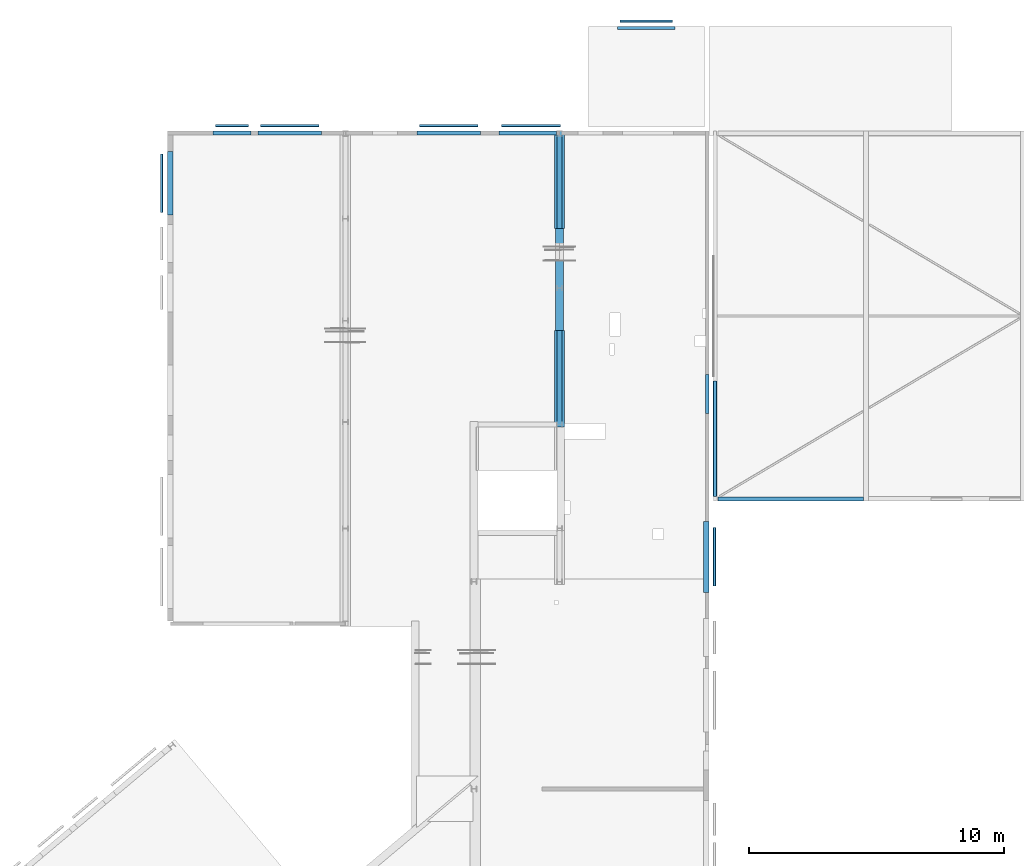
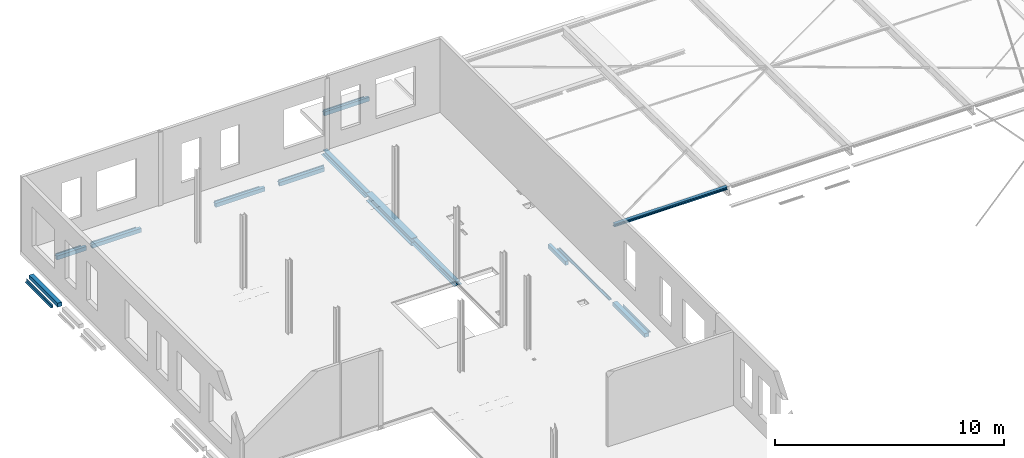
# One storey, part 8 of 16: 20 beams.
"""IFC2X3 building model written with IfcOpenShell, lengths in millimetres."""

from ifc_helpers import new_model, entity, si_unit, converted_unit, derived_unit, direction, frame, frame_2d, origin, origin_2d_with_axis, place, context, subcontext, project, spatial, polyline, circle_curve, parameter, trimmed, segment, composite_curve, rectangle, i_section, outline, extrude, source, transform, mapped, material, material_list, type_object, type_shapes, element, save


model = new_model("IFC2X3")

# Units and contexts
model_context = context("Model", 3, precision=0.01, world=origin(), true_north=direction((6.12303176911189e-17, 1.0)))
body_context = subcontext(model_context, "Body", "Model", "MODEL_VIEW")
ifc_project = project(units=[si_unit("LENGTHUNIT", "METRE", prefix="MILLI"), si_unit("AREAUNIT", "SQUARE_METRE"), si_unit("VOLUMEUNIT", "CUBIC_METRE"), converted_unit("PLANEANGLEUNIT", "DEGREE", entity("IfcRatioMeasure", 0.0174532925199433), si_unit("PLANEANGLEUNIT", "RADIAN"), dimensions=[0, 0, 0, 0, 0, 0, 0]), si_unit("MASSUNIT", "GRAM", prefix="KILO"), derived_unit("MASSDENSITYUNIT", [(si_unit("MASSUNIT", "GRAM", prefix="KILO"), 1), (si_unit("LENGTHUNIT", "METRE"), -3)]), derived_unit("MOMENTOFINERTIAUNIT", [(si_unit("LENGTHUNIT", "METRE"), 4)]), si_unit("TIMEUNIT", "SECOND"), si_unit("FREQUENCYUNIT", "HERTZ"), si_unit("THERMODYNAMICTEMPERATUREUNIT", "DEGREE_CELSIUS"), derived_unit("THERMALTRANSMITTANCEUNIT", [(si_unit("MASSUNIT", "GRAM", prefix="KILO"), 1), (si_unit("THERMODYNAMICTEMPERATUREUNIT", "KELVIN"), -1), (si_unit("TIMEUNIT", "SECOND"), -3)]), derived_unit("VOLUMETRICFLOWRATEUNIT", [(si_unit("LENGTHUNIT", "METRE"), 3), (si_unit("TIMEUNIT", "SECOND"), -1)]), si_unit("ELECTRICCURRENTUNIT", "AMPERE"), si_unit("ELECTRICVOLTAGEUNIT", "VOLT"), si_unit("POWERUNIT", "WATT"), si_unit("FORCEUNIT", "NEWTON", prefix="KILO"), si_unit("ILLUMINANCEUNIT", "LUX"), si_unit("LUMINOUSFLUXUNIT", "LUMEN"), si_unit("LUMINOUSINTENSITYUNIT", "CANDELA"), derived_unit("USERDEFINED", [(si_unit("MASSUNIT", "GRAM", prefix="KILO"), -1), (si_unit("LENGTHUNIT", "METRE"), -2), (si_unit("TIMEUNIT", "SECOND"), 3), (si_unit("LUMINOUSFLUXUNIT", "LUMEN"), 1)]), derived_unit("LINEARVELOCITYUNIT", [(si_unit("LENGTHUNIT", "METRE"), 1), (si_unit("TIMEUNIT", "SECOND"), -1)]), si_unit("PRESSUREUNIT", "PASCAL"), derived_unit("USERDEFINED", [(si_unit("LENGTHUNIT", "METRE"), -2), (si_unit("MASSUNIT", "GRAM", prefix="KILO"), 1), (si_unit("TIMEUNIT", "SECOND"), -2)]), derived_unit("LINEARFORCEUNIT", [(si_unit("MASSUNIT", "GRAM", prefix="KILO"), 1), (si_unit("LENGTHUNIT", "METRE"), 1), (si_unit("TIMEUNIT", "SECOND"), -2), (si_unit("LENGTHUNIT", "METRE"), -1)]), derived_unit("PLANARFORCEUNIT", [(si_unit("MASSUNIT", "GRAM", prefix="KILO"), 1), (si_unit("LENGTHUNIT", "METRE"), 1), (si_unit("TIMEUNIT", "SECOND"), -2), (si_unit("LENGTHUNIT", "METRE"), -2)])], contexts=[model_context])

# Site, building, storey
site_placement = place(None, origin())
site = spatial("IfcSite", under=ifc_project, at=site_placement, Name="Default", CompositionType="ELEMENT")
building_placement = place(site_placement, origin())
building = spatial("IfcBuilding", under=site, at=building_placement, CompositionType="ELEMENT")
storey_placement = place(building_placement, frame((0.0, 0.0, 3500.0)))
storey = spatial("IfcBuildingStorey", under=building, at=storey_placement, Name="01 eerste verdieping", CompositionType="ELEMENT", Elevation=3500.00000000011)

# Beams
ifc_material_1 = material(Name="00_Staal_generiek")
beam_type_1 = type_object("IfcBeamType", Name="BERSnl_28_SF_LIB_balk hoeklijn ongelijk_gen_ISR:balk gen l150x100x10", PredefinedType="BEAM")
beam_1_placement = place(storey_placement, frame((14954.4349765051, 35679.3488747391, -567.0)))
element("IfcBeam", 1, at=beam_1_placement, inside=storey, type_object=beam_type_1, material=ifc_material_1, Name="BERSnl_28_SF_LIB_balk hoeklijn ongelijk_gen_ISR:balk gen l150x100x10", ObjectType="BERSnl_28_SF_LIB_balk hoeklijn ongelijk_gen_ISR:balk gen l150x100x10", context=body_context, shape_type="SweptSolid", body=[
    extrude(outline(composite_curve([segment(polyline([(-95.5555555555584, -37.7777777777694), (54.4444444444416, -37.7777777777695)]), True, "CONTINUOUS"), segment(polyline([(54.4444444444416, -37.7777777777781), (54.4444444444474, 62.2222222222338)]), True, "CONTINUOUS"), segment(polyline([(54.4444444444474, 62.2222222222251), (50.4444444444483, 62.222222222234)]), True, "CONTINUOUS"), segment(trimmed(circle_curve(frame_2d((50.4444444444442, 56.2222222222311), x_axis=(0.0, 1.0)), 5.99999999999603), [parameter(0.0)], [parameter(90.0000000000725)], True, "PARAMETER"), True, "CONTINUOUS"), segment(polyline([(44.4444444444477, 56.2222222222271), (44.4444444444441, -15.7777777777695)]), True, "CONTINUOUS"), segment(trimmed(circle_curve(frame_2d((32.4444444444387, -15.7777777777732), x_axis=(1.0, 0.0)), 12.000000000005), [parameter(270.000000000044)], [parameter(0.0)], True, "PARAMETER"), False, "CONTINUOUS"), segment(polyline([(32.4444444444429, -27.7777777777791), (-89.5555555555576, -27.7777777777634)]), True, "CONTINUOUS"), segment(trimmed(circle_curve(frame_2d((-89.5555555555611, -33.7777777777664), x_axis=(0.0, 1.0)), 5.99999999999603), [parameter(0.0)], [parameter(90.0000000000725)], True, "PARAMETER"), True, "CONTINUOUS"), segment(polyline([(-95.5555555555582, -33.7777777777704), (-95.5555555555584, -37.7777777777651)]), True, "CONTINUOUS")], self_intersect=False)), frame((523.0, 14.3777777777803, -95.5555555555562), z_axis=(1.0, 0.0, 0.0), x_axis=(0.0, 0.0, -1.0)), (0.0, 0.0, 1.0), 1286.0),
])
beam_2_placement = place(storey_placement, frame((13402.0349765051, 32570.1243721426, -560.0), z_axis=(0.0, 0.0, 1.0), x_axis=(0.0, 1.0, 0.0)))
element("IfcBeam", 2, at=beam_2_placement, inside=storey, type_object=beam_type_1, material=ifc_material_1, Name="BERSnl_28_SF_LIB_balk hoeklijn ongelijk_gen_ISR:balk gen l150x100x10", ObjectType="BERSnl_28_SF_LIB_balk hoeklijn ongelijk_gen_ISR:balk gen l150x100x10", context=body_context, shape_type="SweptSolid", body=[
    extrude(outline(composite_curve([segment(polyline([(-95.5555555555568, -37.7777777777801), (54.4444444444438, -37.7777777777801)]), True, "CONTINUOUS"), segment(polyline([(54.4444444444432, -37.7777777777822), (54.4444444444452, 62.2222222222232)]), True, "CONTINUOUS"), segment(polyline([(54.4444444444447, 62.222222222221), (50.4444444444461, 62.2222222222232)]), True, "CONTINUOUS"), segment(trimmed(circle_curve(frame_2d((50.4444444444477, 56.2222222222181), x_axis=(0.0, 1.0)), 6.00000000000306), [parameter(0.0)], [parameter(89.9999999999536)], True, "PARAMETER"), True, "CONTINUOUS"), segment(polyline([(44.4444444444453, 56.2222222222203), (44.4444444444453, -15.7777777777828)]), True, "CONTINUOUS"), segment(trimmed(circle_curve(frame_2d((32.4444444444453, -15.7777777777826), x_axis=(1.0, 0.0)), 11.9999999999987), [parameter(269.999999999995)], [parameter(0.0)], True, "PARAMETER"), False, "CONTINUOUS"), segment(polyline([(32.4444444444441, -27.777777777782), (-89.5555555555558, -27.7777777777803)]), True, "CONTINUOUS"), segment(trimmed(circle_curve(frame_2d((-89.5555555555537, -33.7777777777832), x_axis=(0.0, 1.0)), 6.00000000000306), [parameter(0.0)], [parameter(89.9999999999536)], True, "PARAMETER"), True, "CONTINUOUS"), segment(polyline([(-95.5555555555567, -33.777777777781), (-95.5555555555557, -37.7777777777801)]), True, "CONTINUOUS")], self_intersect=False)), frame((-251.827743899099, 14.3777777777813, -95.5555555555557), z_axis=(1.0, 0.0, 0.0), x_axis=(0.0, 0.0, -1.0)), (0.0, 0.0, 1.0), 2286.0),
])
beam_3_placement = place(storey_placement, frame((23974.4349765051, 35679.3488747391, -567.0)))
element("IfcBeam", 3, at=beam_3_placement, inside=storey, type_object=beam_type_1, material=ifc_material_1, Name="BERSnl_28_SF_LIB_balk hoeklijn ongelijk_gen_ISR:balk gen l150x100x10", ObjectType="BERSnl_28_SF_LIB_balk hoeklijn ongelijk_gen_ISR:balk gen l150x100x10", context=body_context, shape_type="SweptSolid", body=[
    extrude(outline(composite_curve([segment(polyline([(-95.5555555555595, -37.7777777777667), (54.44444444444, -37.7777777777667)]), True, "CONTINUOUS"), segment(polyline([(54.4444444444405, -37.7777777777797), (54.4444444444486, 62.2222222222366)]), True, "CONTINUOUS"), segment(polyline([(54.4444444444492, 62.2222222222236), (50.4444444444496, 62.2222222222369)]), True, "CONTINUOUS"), segment(trimmed(circle_curve(frame_2d((50.4444444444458, 56.2222222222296), x_axis=(0.0, 1.0)), 5.99999999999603), [parameter(0.0)], [parameter(90.0000000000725)], True, "PARAMETER"), True, "CONTINUOUS"), segment(polyline([(44.4444444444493, 56.2222222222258), (44.4444444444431, -15.7777777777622)]), True, "CONTINUOUS"), segment(trimmed(circle_curve(frame_2d((32.4444444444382, -15.7777777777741), x_axis=(1.0, 0.0)), 12.000000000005), [parameter(270.000000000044)], [parameter(0.0)], True, "PARAMETER"), False, "CONTINUOUS"), segment(polyline([(32.4444444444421, -27.77777777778), (-89.5555555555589, -27.7777777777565)]), True, "CONTINUOUS"), segment(trimmed(circle_curve(frame_2d((-89.5555555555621, -33.7777777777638), x_axis=(0.0, 1.0)), 5.99999999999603), [parameter(0.0)], [parameter(90.0000000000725)], True, "PARAMETER"), True, "CONTINUOUS"), segment(polyline([(-95.5555555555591, -33.7777777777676), (-95.55555555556, -37.7777777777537)]), True, "CONTINUOUS")], self_intersect=False)), frame((-497.0, 14.3777777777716, -95.5555555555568), z_axis=(1.0, 0.0, 0.0), x_axis=(0.0, 0.0, -1.0)), (0.0, 0.0, 1.0), 2288.0),
])
beam_4_placement = place(storey_placement, frame((26919.4349765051, 35679.3488747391, -567.0)))
element("IfcBeam", 4, at=beam_4_placement, inside=storey, type_object=beam_type_1, material=ifc_material_1, Name="BERSnl_28_SF_LIB_balk hoeklijn ongelijk_gen_ISR:balk gen l150x100x10", ObjectType="BERSnl_28_SF_LIB_balk hoeklijn ongelijk_gen_ISR:balk gen l150x100x10", context=body_context, shape_type="SweptSolid", body=[
    extrude(outline(composite_curve([segment(polyline([(-95.5555555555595, -37.7777777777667), (54.44444444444, -37.7777777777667)]), True, "CONTINUOUS"), segment(polyline([(54.4444444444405, -37.7777777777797), (54.4444444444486, 62.2222222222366)]), True, "CONTINUOUS"), segment(polyline([(54.4444444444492, 62.2222222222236), (50.4444444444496, 62.2222222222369)]), True, "CONTINUOUS"), segment(trimmed(circle_curve(frame_2d((50.4444444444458, 56.2222222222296), x_axis=(0.0, 1.0)), 5.99999999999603), [parameter(0.0)], [parameter(90.0000000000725)], True, "PARAMETER"), True, "CONTINUOUS"), segment(polyline([(44.4444444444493, 56.2222222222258), (44.4444444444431, -15.7777777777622)]), True, "CONTINUOUS"), segment(trimmed(circle_curve(frame_2d((32.4444444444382, -15.7777777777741), x_axis=(1.0, 0.0)), 12.000000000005), [parameter(270.000000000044)], [parameter(0.0)], True, "PARAMETER"), False, "CONTINUOUS"), segment(polyline([(32.4444444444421, -27.77777777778), (-89.5555555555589, -27.7777777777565)]), True, "CONTINUOUS"), segment(trimmed(circle_curve(frame_2d((-89.5555555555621, -33.7777777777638), x_axis=(0.0, 1.0)), 5.99999999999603), [parameter(0.0)], [parameter(90.0000000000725)], True, "PARAMETER"), True, "CONTINUOUS"), segment(polyline([(-95.5555555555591, -33.7777777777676), (-95.55555555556, -37.7777777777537)]), True, "CONTINUOUS")], self_intersect=False)), frame((-232.0, 14.377777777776, -95.5555555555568), z_axis=(1.0, 0.0, 0.0), x_axis=(0.0, 0.0, -1.0)), (0.0, 0.0, 1.0), 2322.0),
])
beam_5_placement = place(storey_placement, frame((31643.979888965, 39779.6966282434, -945.0)))
element("IfcBeam", 5, at=beam_5_placement, inside=storey, type_object=beam_type_1, material=ifc_material_1, Name="BERSnl_28_SF_LIB_balk hoeklijn ongelijk_gen_ISR:balk gen l150x100x10", ObjectType="BERSnl_28_SF_LIB_balk hoeklijn ongelijk_gen_ISR:balk gen l150x100x10", context=body_context, shape_type="SweptSolid", body=[
    extrude(outline(composite_curve([segment(polyline([(-95.5555555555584, -37.7777777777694), (54.4444444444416, -37.7777777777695)]), True, "CONTINUOUS"), segment(polyline([(54.4444444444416, -37.7777777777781), (54.4444444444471, 62.2222222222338)]), True, "CONTINUOUS"), segment(polyline([(54.4444444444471, 62.2222222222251), (50.4444444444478, 62.222222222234)]), True, "CONTINUOUS"), segment(trimmed(circle_curve(frame_2d((50.4444444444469, 56.2222222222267), x_axis=(0.0, 1.0)), 5.99999999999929), [parameter(0.0)], [parameter(90.0000000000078)], True, "PARAMETER"), True, "CONTINUOUS"), segment(polyline([(44.4444444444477, 56.2222222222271), (44.4444444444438, -15.7777777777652)]), True, "CONTINUOUS"), segment(trimmed(circle_curve(frame_2d((32.4444444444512, -15.7777777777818), x_axis=(1.0, 0.0)), 11.999999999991), [parameter(269.999999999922)], [parameter(0.0)], True, "PARAMETER"), False, "CONTINUOUS"), segment(polyline([(32.4444444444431, -27.7777777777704), (-89.5555555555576, -27.7777777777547)]), True, "CONTINUOUS"), segment(trimmed(circle_curve(frame_2d((-89.5555555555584, -33.7777777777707), x_axis=(0.0, 1.0)), 5.99999999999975), [parameter(0.0)], [parameter(90.0000000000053)], True, "PARAMETER"), True, "CONTINUOUS"), segment(polyline([(-95.5555555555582, -33.7777777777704), (-95.5555555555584, -37.7777777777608)]), True, "CONTINUOUS")], self_intersect=False)), frame((-308.544912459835, 14.377777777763, -95.5555555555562), z_axis=(1.0, 0.0, 0.0), x_axis=(0.0, 0.0, -1.0)), (0.0, 0.0, 1.0), 2064.88887394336),
])
beam_6_placement = place(storey_placement, frame((35016.8270571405, 18106.9986417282, -560.0), z_axis=(0.0, 0.0, 1.0), x_axis=(0.0, 1.0, 0.0)))
element("IfcBeam", 6, at=beam_6_placement, inside=storey, type_object=beam_type_1, material=ifc_material_1, Name="BERSnl_28_SF_LIB_balk hoeklijn ongelijk_gen_ISR:balk gen l150x100x10", ObjectType="BERSnl_28_SF_LIB_balk hoeklijn ongelijk_gen_ISR:balk gen l150x100x10", context=body_context, shape_type="SweptSolid", body=[
    extrude(outline(composite_curve([segment(polyline([(50.4444444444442, -62.2222222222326), (54.4444444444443, -62.2222222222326)]), True, "CONTINUOUS"), segment(polyline([(54.4444444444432, -62.2222222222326), (54.4444444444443, 37.7777777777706)]), True, "CONTINUOUS"), segment(polyline([(54.4444444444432, 37.7777777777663), (-95.5555555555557, 37.7777777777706)]), True, "CONTINUOUS"), segment(polyline([(-95.5555555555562, 37.7777777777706), (-95.5555555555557, 33.7777777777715)]), True, "CONTINUOUS"), segment(trimmed(circle_curve(frame_2d((-89.5555555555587, 33.7777777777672), x_axis=(-1.0, 0.0)), 5.99999999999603), [parameter(0.0)], [parameter(90.0000000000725)], True, "PARAMETER"), True, "CONTINUOUS"), segment(polyline([(-89.5555555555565, 27.7777777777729), (32.444444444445, 27.7777777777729)]), True, "CONTINUOUS"), segment(trimmed(circle_curve(frame_2d((32.4444444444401, 15.777777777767), x_axis=(0.0, 1.0)), 12.000000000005), [parameter(270.000000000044)], [parameter(0.0)], True, "PARAMETER"), False, "CONTINUOUS"), segment(polyline([(44.4444444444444, 15.777777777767), (44.444444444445, -56.222222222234)]), True, "CONTINUOUS"), segment(trimmed(circle_curve(frame_2d((50.4444444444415, -56.2222222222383), x_axis=(-1.0, 0.0)), 5.99999999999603), [parameter(0.0)], [parameter(90.0000000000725)], True, "PARAMETER"), True, "CONTINUOUS")], self_intersect=False)), frame((-452.364971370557, -14.3777777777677, -95.5555555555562), z_axis=(1.0, 0.0, 0.0), x_axis=(0.0, 0.0, -1.0)), (0.0, 0.0, 1.0), 2295.00000000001),
])
beam_7_placement = place(storey_placement, frame((16724.4349765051, 35679.3488747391, -567.0)))
element("IfcBeam", 7, at=beam_7_placement, inside=storey, type_object=beam_type_1, material=ifc_material_1, Name="BERSnl_28_SF_LIB_balk hoeklijn ongelijk_gen_ISR:balk gen l150x100x10", ObjectType="BERSnl_28_SF_LIB_balk hoeklijn ongelijk_gen_ISR:balk gen l150x100x10", context=body_context, shape_type="SweptSolid", body=[
    extrude(outline(composite_curve([segment(polyline([(-95.5555555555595, -37.777777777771), (54.4444444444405, -37.777777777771)]), True, "CONTINUOUS"), segment(polyline([(54.4444444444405, -37.777777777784), (54.4444444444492, 62.2222222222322)]), True, "CONTINUOUS"), segment(polyline([(54.4444444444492, 62.2222222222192), (50.4444444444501, 62.2222222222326)]), True, "CONTINUOUS"), segment(trimmed(circle_curve(frame_2d((50.4444444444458, 56.2222222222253), x_axis=(0.0, 1.0)), 5.99999999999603), [parameter(0.0)], [parameter(90.0000000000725)], True, "PARAMETER"), True, "CONTINUOUS"), segment(polyline([(44.4444444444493, 56.2222222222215), (44.4444444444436, -15.7777777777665)]), True, "CONTINUOUS"), segment(trimmed(circle_curve(frame_2d((32.4444444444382, -15.7777777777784), x_axis=(1.0, 0.0)), 12.000000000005), [parameter(270.000000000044)], [parameter(0.0)], True, "PARAMETER"), False, "CONTINUOUS"), segment(polyline([(32.4444444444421, -27.7777777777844), (-89.5555555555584, -27.7777777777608)]), True, "CONTINUOUS"), segment(trimmed(circle_curve(frame_2d((-89.5555555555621, -33.7777777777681), x_axis=(0.0, 1.0)), 5.99999999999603), [parameter(0.0)], [parameter(90.0000000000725)], True, "PARAMETER"), True, "CONTINUOUS"), segment(polyline([(-95.5555555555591, -33.7777777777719), (-95.5555555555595, -37.777777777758)]), True, "CONTINUOUS")], self_intersect=False)), frame((523.0, 14.3777777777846, -95.5555555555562), z_axis=(1.0, 0.0, 0.0), x_axis=(0.0, 0.0, -1.0)), (0.0, 0.0, 1.0), 2286.0),
])
ifc_material_2 = material(Name="f2_beton prefab")
beam_type_2 = type_object("IfcBeamType", Name="BERSnl_28_SF_LIB_balk vierkant prefab_gen_ISR:balk vierkant gen 150x210", PredefinedType="JOIST")
beam_8_placement = place(storey_placement, frame((14969.4349765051, 35420.9488747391, -497.0)))
element("IfcBeam", 8, at=beam_8_placement, inside=storey, type_object=beam_type_2, material=ifc_material_2, Name="BERSnl_28_SF_LIB_balk vierkant prefab_gen_ISR:balk vierkant gen 150x210", ObjectType="BERSnl_28_SF_LIB_balk vierkant prefab_gen_ISR:balk vierkant gen 150x210", context=body_context, shape_type="SweptSolid", body=[
    extrude(rectangle(XDim=210.000000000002, YDim=149.999999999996, at=frame_2d((0.0, 2.16715534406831e-12), x_axis=(1.0, 0.0))), frame((408.0, 0.0, -105.0), z_axis=(1.0, 0.0, 0.0), x_axis=(0.0, 0.0, -1.0)), (0.0, 0.0, 1.0), 1486.0),
])
beam_9_placement = place(storey_placement, frame((23989.4349765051, 35420.9488747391, -497.0)))
element("IfcBeam", 9, at=beam_9_placement, inside=storey, type_object=beam_type_2, material=ifc_material_2, Name="BERSnl_28_SF_LIB_balk vierkant prefab_gen_ISR:balk vierkant gen 150x210", ObjectType="BERSnl_28_SF_LIB_balk vierkant prefab_gen_ISR:balk vierkant gen 150x210", context=body_context, shape_type="SweptSolid", body=[
    extrude(rectangle(XDim=210.000000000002, YDim=149.999999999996, at=frame_2d((5.40012479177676e-13, 6.49436060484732e-12), x_axis=(1.0, 0.0))), frame((-612.0, 0.0, -105.0), z_axis=(1.0, 0.0, 0.0), x_axis=(0.0, 0.0, -1.0)), (0.0, 0.0, 1.0), 2488.0),
])
beam_10_placement = place(storey_placement, frame((26934.4349765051, 35420.9488747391, -497.0)))
element("IfcBeam", 10, at=beam_10_placement, inside=storey, type_object=beam_type_2, material=ifc_material_2, Name="BERSnl_28_SF_LIB_balk vierkant prefab_gen_ISR:balk vierkant gen 150x210", ObjectType="BERSnl_28_SF_LIB_balk vierkant prefab_gen_ISR:balk vierkant gen 150x210", context=body_context, shape_type="SweptSolid", body=[
    extrude(rectangle(XDim=210.000000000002, YDim=149.999999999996, at=frame_2d((5.40012479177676e-13, 6.49436060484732e-12), x_axis=(1.0, 0.0))), frame((-347.0, 0.0, -105.0), z_axis=(1.0, 0.0, 0.0), x_axis=(0.0, 0.0, -1.0)), (0.0, 0.0, 1.0), 2270.20007680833),
])
beam_11_placement = place(storey_placement, frame((34758.4270571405, 24742.2339345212, -923.0), z_axis=(0.0, 0.0, 1.0), x_axis=(0.0, 1.0, 0.0)))
element("IfcBeam", 11, at=beam_11_placement, inside=storey, type_object=beam_type_2, material=ifc_material_2, Name="BERSnl_28_SF_LIB_balk vierkant prefab_gen_ISR:balk vierkant gen 150x210", ObjectType="BERSnl_28_SF_LIB_balk vierkant prefab_gen_ISR:balk vierkant gen 150x210", context=body_context, shape_type="SweptSolid", body=[
    extrude(rectangle(XDim=210.000000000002, YDim=149.999999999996, at=frame_2d((-1.62003743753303e-12, -2.1600499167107e-12), x_axis=(1.0, 0.0))), frame((-319.937306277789, 0.0, -105.0), z_axis=(1.0, 0.0, 0.0), x_axis=(0.0, 0.0, -1.0)), (0.0, 0.0, 1.0), 1534.29121661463),
])
beam_12_placement = place(storey_placement, frame((16739.4349765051, 35420.9488747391, -497.0)))
element("IfcBeam", 12, at=beam_12_placement, inside=storey, type_object=beam_type_2, material=ifc_material_2, Name="BERSnl_28_SF_LIB_balk vierkant prefab_gen_ISR:balk vierkant gen 150x210", ObjectType="BERSnl_28_SF_LIB_balk vierkant prefab_gen_ISR:balk vierkant gen 150x210", context=body_context, shape_type="SweptSolid", body=[
    extrude(rectangle(XDim=210.000000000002, YDim=149.999999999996, at=frame_2d((0.0, 6.49436060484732e-12), x_axis=(1.0, 0.0))), frame((408.0, 0.0, -105.0), z_axis=(1.0, 0.0, 0.0), x_axis=(0.0, 0.0, -1.0)), (0.0, 0.0, 1.0), 2486.0),
])
beam_type_3 = type_object("IfcBeamType", Name="BERSnl_28_SF_LIB_balk vierkant prefab_gen_ISR:balk vierkant gen 214x210", PredefinedType="JOIST")
beam_13_placement = place(storey_placement, frame((13702.4349765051, 31836.5425954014, -490.0), z_axis=(0.0, 0.0, 1.0), x_axis=(0.0, 1.0, 0.0)))
element("IfcBeam", 13, at=beam_13_placement, inside=storey, type_object=beam_type_3, material=ifc_material_2, Name="BERSnl_28_SF_LIB_balk vierkant prefab_gen_ISR:balk vierkant gen 214x210", ObjectType="BERSnl_28_SF_LIB_balk vierkant prefab_gen_ISR:balk vierkant gen 214x210", context=body_context, shape_type="SweptSolid", body=[
    extrude(rectangle(XDim=210.000000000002, YDim=213.999999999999, at=origin_2d_with_axis()), frame((381.754032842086, 0.0, -105.0), z_axis=(1.0, 0.0, 0.0), x_axis=(0.0, 0.0, -1.0)), (0.0, 0.0, 1.0), 2486.0),
])
beam_14_placement = place(storey_placement, frame((34726.4270571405, 18091.29829599, -490.0), z_axis=(0.0, 0.0, 1.0), x_axis=(0.0, 1.0, 0.0)))
element("IfcBeam", 14, at=beam_14_placement, inside=storey, type_object=beam_type_3, material=ifc_material_2, Name="BERSnl_28_SF_LIB_balk vierkant prefab_gen_ISR:balk vierkant gen 214x210", ObjectType="BERSnl_28_SF_LIB_balk vierkant prefab_gen_ISR:balk vierkant gen 214x210", context=body_context, shape_type="SweptSolid", body=[
    extrude(rectangle(XDim=210.000000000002, YDim=213.999999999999, at=frame_2d((0.0, 6.49436060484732e-12), x_axis=(1.0, 0.0))), frame((-686.664625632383, 0.0, -105.0), z_axis=(1.0, 0.0, 0.0), x_axis=(0.0, 0.0, -1.0)), (0.0, 0.0, 1.0), 2786.48145657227),
])
ifc_material_3 = material(Name="<Unnamed>")
ifc_material_list_1 = material_list([ifc_material_3, ifc_material_1])
beam_type_4 = type_object("IfcBeamType", Name="BERSnl_28_SF_LIB_balk sfb_gen_ISR:balk gen heb200 400x15", PredefinedType="T_BEAM", material=ifc_material_list_1)
shared_shape_1 = source(origin(), body_context, "Body", "SweptSolid", [
    extrude(rectangle(XDim=15.0, YDim=400.0, at=origin_2d_with_axis()), frame((-2154.64112989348, 0.0, -60.5000000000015), z_axis=(1.0, 0.0, 0.0), x_axis=(0.0, 0.0, -1.0)), (0.0, 0.0, 1.0), 3824.47514241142),
    extrude(outline(composite_curve([segment(polyline([(85.0, -100.0), (100.0, -100.0)]), True, "CONTINUOUS"), segment(polyline([(100.0, -100.0), (100.0, 100.0)]), True, "CONTINUOUS"), segment(polyline([(100.0, 100.0), (85.0, 100.0)]), True, "CONTINUOUS"), segment(polyline([(85.0, 100.0), (85.0, 22.4999999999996)]), True, "CONTINUOUS"), segment(trimmed(circle_curve(frame_2d((67.0, 22.4999999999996), x_axis=(1.0, 0.0)), 18.0), [parameter(270.0)], [parameter(0.0)], True, "PARAMETER"), False, "CONTINUOUS"), segment(polyline([(67.0, 4.49999999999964), (-67.0, 4.49999999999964)]), True, "CONTINUOUS"), segment(trimmed(circle_curve(frame_2d((-67.0, 22.4999999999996), x_axis=(0.0, -1.0)), 18.0), [parameter(270.0)], [parameter(0.0)], True, "PARAMETER"), False, "CONTINUOUS"), segment(polyline([(-85.0, 22.4999999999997), (-85.0, 100.0)]), True, "CONTINUOUS"), segment(polyline([(-85.0, 100.0), (-100.0, 100.0)]), True, "CONTINUOUS"), segment(polyline([(-100.0, 100.0), (-100.0, -100.0)]), True, "CONTINUOUS"), segment(polyline([(-100.0, -100.0), (-85.0, -100.0)]), True, "CONTINUOUS"), segment(polyline([(-85.0, -100.0), (-85.0, -22.5000000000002)]), True, "CONTINUOUS"), segment(trimmed(circle_curve(frame_2d((-67.0, -22.5000000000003), x_axis=(-1.0, 0.0)), 18.0), [parameter(270.0)], [parameter(0.0)], True, "PARAMETER"), False, "CONTINUOUS"), segment(polyline([(-67.0, -4.50000000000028), (67.0, -4.50000000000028)]), True, "CONTINUOUS"), segment(trimmed(circle_curve(frame_2d((67.0, -22.5000000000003), x_axis=(0.0, 1.0)), 18.0), [parameter(270.0)], [parameter(0.0)], True, "PARAMETER"), False, "CONTINUOUS"), segment(polyline([(85.0, -22.5000000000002), (85.0, -100.0)]), True, "CONTINUOUS")], self_intersect=False)), frame((-2154.85013300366, 0.0, 47.0), z_axis=(1.0, 0.0, 0.0), x_axis=(0.0, 0.0, -1.0)), (0.0, 0.0, 1.0), 3825.0),
])
type_shapes(beam_type_4, [shared_shape_1])
beam_15_placement = place(storey_placement, frame((28969.4349765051, 33837.1467612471, 203.0), z_axis=(0.0, 0.0, 1.0), x_axis=(0.0, 1.0, 0.0)))
element("IfcBeam", 15, at=beam_15_placement, inside=storey, type_object=beam_type_4, Name="BERSnl_28_SF_LIB_balk sfb_gen_ISR:balk gen heb200 400x15", ObjectType="BERSnl_28_SF_LIB_balk sfb_gen_ISR:balk gen heb200 400x15", context=body_context, shape_type="MappedRepresentation", body=[
    mapped(shared_shape_1, transform((0.0, 0.0, 0.0), scale=1.0)),
])
beam_type_5 = type_object("IfcBeamType", Name="BERSnl_28_SF_LIB_balk heb_gen_ISR:balk gen heb400", PredefinedType="BEAM")
beam_16_placement = place(storey_placement, frame((28969.4349765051, 29802.2966282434, 375.0), z_axis=(0.0, 0.0, 1.0), x_axis=(0.0, 1.0, 0.0)))
element("IfcBeam", 16, at=beam_16_placement, inside=storey, type_object=beam_type_5, material=ifc_material_1, Name="BERSnl_28_SF_LIB_balk heb_gen_ISR:balk gen heb400", ObjectType="BERSnl_28_SF_LIB_balk heb_gen_ISR:balk gen heb400", context=body_context, shape_type="SweptSolid", body=[
    extrude(i_section(OverallWidth=299.999999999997, OverallDepth=400.0, WebThickness=13.500000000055, FlangeThickness=24.000000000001, FilletRadius=26.9999999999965, at=frame_2d((1.08002495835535e-12, 4.33431068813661e-12), x_axis=(0.0, 1.0))), frame((-2120.0, 0.0, -200.0), z_axis=(1.0, 0.0, 0.0), x_axis=(0.0, 0.0, -1.0)), (0.0, 0.0, 1.0), 4000.0),
])
ifc_material_list_2 = material_list([ifc_material_3, ifc_material_1])
beam_type_6 = type_object("IfcBeamType", Name="BERSnl_28_SF_LIB_balk sfb_gen_ISR:balk gen heb200 400x15", PredefinedType="T_BEAM", material=ifc_material_list_2)
shared_shape_2 = source(origin(), body_context, "Body", "SweptSolid", [
    extrude(rectangle(XDim=15.0, YDim=400.0, at=origin_2d_with_axis()), frame((-2120.148022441, 0.0, -60.5000000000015), z_axis=(1.0, 0.0, 0.0), x_axis=(0.0, 0.0, -1.0)), (0.0, 0.0, 1.0), 3789.66618048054),
    extrude(outline(composite_curve([segment(polyline([(85.0, -100.0), (100.0, -100.0)]), True, "CONTINUOUS"), segment(polyline([(100.0, -100.0), (100.0, 100.0)]), True, "CONTINUOUS"), segment(polyline([(100.0, 100.0), (85.0, 100.0)]), True, "CONTINUOUS"), segment(polyline([(85.0, 100.0), (85.0, 22.4999999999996)]), True, "CONTINUOUS"), segment(trimmed(circle_curve(frame_2d((67.0, 22.4999999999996), x_axis=(1.0, 0.0)), 18.0), [parameter(270.0)], [parameter(0.0)], True, "PARAMETER"), False, "CONTINUOUS"), segment(polyline([(67.0, 4.49999999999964), (-67.0, 4.49999999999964)]), True, "CONTINUOUS"), segment(trimmed(circle_curve(frame_2d((-67.0, 22.4999999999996), x_axis=(0.0, -1.0)), 18.0), [parameter(270.0)], [parameter(0.0)], True, "PARAMETER"), False, "CONTINUOUS"), segment(polyline([(-85.0, 22.4999999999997), (-85.0, 100.0)]), True, "CONTINUOUS"), segment(polyline([(-85.0, 100.0), (-100.0, 100.0)]), True, "CONTINUOUS"), segment(polyline([(-100.0, 100.0), (-100.0, -100.0)]), True, "CONTINUOUS"), segment(polyline([(-100.0, -100.0), (-85.0, -100.0)]), True, "CONTINUOUS"), segment(polyline([(-85.0, -100.0), (-85.0, -22.5000000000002)]), True, "CONTINUOUS"), segment(trimmed(circle_curve(frame_2d((-67.0, -22.5000000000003), x_axis=(-1.0, 0.0)), 18.0), [parameter(270.0)], [parameter(0.0)], True, "PARAMETER"), False, "CONTINUOUS"), segment(polyline([(-67.0, -4.50000000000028), (67.0, -4.50000000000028)]), True, "CONTINUOUS"), segment(trimmed(circle_curve(frame_2d((67.0, -22.5000000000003), x_axis=(0.0, 1.0)), 18.0), [parameter(270.0)], [parameter(0.0)], True, "PARAMETER"), False, "CONTINUOUS"), segment(polyline([(85.0, -22.5000000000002), (85.0, -100.0)]), True, "CONTINUOUS")], self_intersect=False)), frame((-2120.16598748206, 0.0, 47.0), z_axis=(1.0, 0.0, 0.0), x_axis=(0.0, 0.0, -1.0)), (0.0, 0.0, 1.0), 3790.0),
])
type_shapes(beam_type_6, [shared_shape_2])
beam_17_placement = place(storey_placement, frame((28969.4349765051, 26012.4626157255, 203.0), z_axis=(0.0, 0.0, 1.0), x_axis=(0.0, 1.0, 0.0)))
element("IfcBeam", 17, at=beam_17_placement, inside=storey, type_object=beam_type_6, Name="BERSnl_28_SF_LIB_balk sfb_gen_ISR:balk gen heb200 400x15", ObjectType="BERSnl_28_SF_LIB_balk sfb_gen_ISR:balk gen heb200 400x15", context=body_context, shape_type="MappedRepresentation", body=[
    mapped(shared_shape_2, transform((0.0, 0.0, 0.0), scale=1.0)),
])
beam_type_7 = type_object("IfcBeamType", Name="BERSnl_28_SF_LIB_balk vierkant prefab_gen_ISR:balk vierkant gen 120x150", PredefinedType="JOIST")
beam_18_placement = place(storey_placement, frame((31485.2407660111, 39536.2966282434, -875.0)))
element("IfcBeam", 18, at=beam_18_placement, inside=storey, type_object=beam_type_7, material=ifc_material_2, Name="BERSnl_28_SF_LIB_balk vierkant prefab_gen_ISR:balk vierkant gen 120x150", ObjectType="BERSnl_28_SF_LIB_balk vierkant prefab_gen_ISR:balk vierkant gen 120x150", context=body_context, shape_type="SweptSolid", body=[
    extrude(rectangle(XDim=210.000000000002, YDim=119.999999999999, at=frame_2d((0.0, 1.29922739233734e-11), x_axis=(1.0, 0.0))), frame((-249.805789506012, 0.0, -105.0), z_axis=(1.0, 0.0, 0.0), x_axis=(0.0, 0.0, -1.0)), (0.0, 0.0, 1.0), 2264.34106348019),
])
beam_type_8 = type_object("IfcBeamType", Name="BERSnl_28_SF_LIB_balk unp_gen_ISR:balk_gen_UNP140", PredefinedType="BEAM")
beam_19_placement = place(storey_placement, frame((34993.4270571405, 24749.8373054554, -1115.50000000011), z_axis=(0.0, 0.0, 1.0), x_axis=(0.0, 1.0, 0.0)))
element("IfcBeam", 19, at=beam_19_placement, inside=storey, type_object=beam_type_8, material=ifc_material_1, Name="BERSnl_28_SF_LIB_balk unp_gen_ISR:balk_gen_UNP140", ObjectType="BERSnl_28_SF_LIB_balk unp_gen_ISR:balk_gen_UNP140", context=body_context, shape_type="SweptSolid", body=[
    extrude(outline(composite_curve([segment(polyline([(-26.8998758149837, -70.0), (33.1001241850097, -70.0)]), True, "CONTINUOUS"), segment(polyline([(33.1001241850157, -70.0), (33.1001241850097, 70.0)]), True, "CONTINUOUS"), segment(polyline([(33.1001241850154, 70.0), (-26.8998758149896, 70.0)]), True, "CONTINUOUS"), segment(polyline([(-26.8998758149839, 70.0), (-26.8998758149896, 66.7383127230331)]), True, "CONTINUOUS"), segment(trimmed(circle_curve(frame_2d((-21.8998758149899, 66.7383127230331), x_axis=(-1.0, 0.0)), 4.99999999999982), [parameter(0.0)], [parameter(85.4200000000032)], True, "PARAMETER"), True, "CONTINUOUS"), segment(polyline([(-22.2991307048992, 61.7542786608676), (16.8986339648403, 58.6142721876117)]), True, "CONTINUOUS"), segment(trimmed(circle_curve(frame_2d((16.1001241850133, 48.6462040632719), x_axis=(0.0798509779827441, 0.996806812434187)), 9.99999999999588), [parameter(274.579999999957)], [parameter(0.0)], True, "PARAMETER"), False, "CONTINUOUS"), segment(polyline([(26.1001241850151, 48.6462040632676), (26.1001241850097, -48.6462040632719)]), True, "CONTINUOUS"), segment(trimmed(circle_curve(frame_2d((16.1001241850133, -48.6462040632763), x_axis=(1.0, 0.0)), 9.99999999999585), [parameter(274.579999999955)], [parameter(0.0)], True, "PARAMETER"), False, "CONTINUOUS"), segment(polyline([(16.8986339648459, -58.614272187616), (-22.2991307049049, -61.754278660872)]), True, "CONTINUOUS"), segment(trimmed(circle_curve(frame_2d((-21.8998758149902, -66.7383127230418), x_axis=(-0.0798509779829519, 0.996806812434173)), 4.9999999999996), [parameter(0.0)], [parameter(85.4200000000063)], True, "PARAMETER"), True, "CONTINUOUS"), segment(polyline([(-26.8998758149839, -66.7383127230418), (-26.8998758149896, -70.0)]), True, "CONTINUOUS")], self_intersect=False)), frame((-3582.540677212, -70.0, 15.6001241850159), z_axis=(1.0, 0.0, 0.0), x_axis=(0.0, 0.0, -1.0)), (0.0, 0.0, 1.0), 4539.00000000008),
])
beam_type_9 = type_object("IfcBeamType", Name="BERSnl_28_SF_LIB_balk hea -SH_gen_ISR:balk gen hea160", PredefinedType="BEAM")
beam_20_placement = place(storey_placement, frame((36447.5838972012, 21076.2966282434, 2970.0)))
element("IfcBeam", 20, at=beam_20_placement, inside=storey, type_object=beam_type_9, material=ifc_material_1, Name="BERSnl_28_SF_LIB_balk hea -SH_gen_ISR:balk gen hea160", ObjectType="BERSnl_28_SF_LIB_balk hea -SH_gen_ISR:balk gen hea160", context=body_context, shape_type="SweptSolid", body=[
    extrude(i_section(OverallWidth=160.00000000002, OverallDepth=152.0, WebThickness=5.99999999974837, FlangeThickness=9.0000000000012, FilletRadius=15.0000000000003, at=frame_2d((2.16715534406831e-12, -2.16715534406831e-12), x_axis=(0.0, 1.0))), frame((-1268.1568400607, 0.0, -76.0), z_axis=(1.0, 0.0, 0.0), x_axis=(0.0, 0.0, -1.0)), (0.0, 0.0, 1.0), 5703.99999999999),
])

save(model, "model.ifc")
